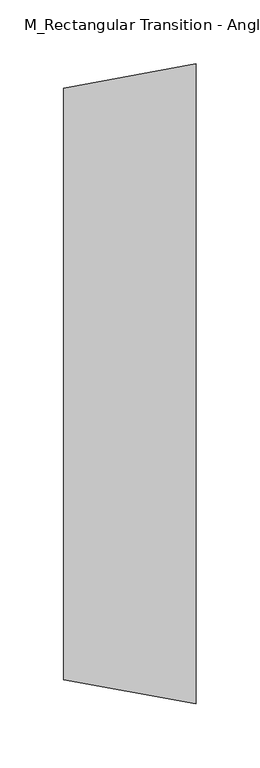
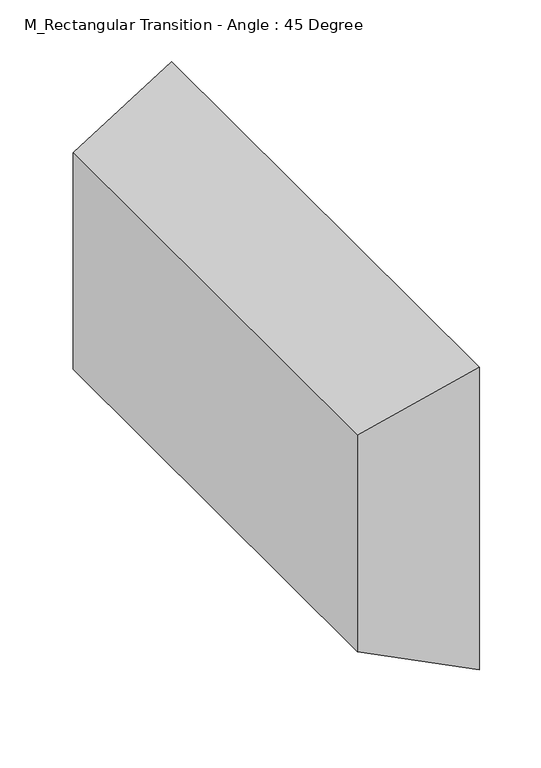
"""IFC4 building model written with IfcOpenShell, lengths in millimetres: duct fitting geometry, M_Rectangular Transition - Angle : 45 Degree."""

import ifcopenshell
import ifcopenshell.guid

model = None  # the IFC model being written
_history = None  # IfcOwnerHistory: only IFC2X3 demands one
_inside = {}  # id of a spatial element -> (the spatial element, [elements in it])
_under = {}  # id of a project, library or spatial element -> (it, [spatial elements below it])
_declared = {}  # id of a project -> (the project, [libraries it declares])
_typed = {}  # id of a type object -> (the type object, [elements of that type])
_made_of = {}  # id of a material, layer set ... -> (it, [elements and type objects made of it])


def new_model(schema):
    """Start an empty IFC model of exactly this schema.

    Asked for "IFC4X3", IfcOpenShell would pick the latest addendum, in which some entities
    have other attributes; the version numbers below select the first issue.
    IFC2X3 requires an IfcOwnerHistory on every rooted entity: one is made here for all.
    """
    global model, _history
    if schema == "IFC4X3":
        model = ifcopenshell.file(schema_version=(4, 3, 0, 0))
    else:
        model = ifcopenshell.file(schema=schema)
    _inside.clear()
    _under.clear()
    _declared.clear()
    _typed.clear()
    _made_of.clear()
    _history = None
    if model.schema == "IFC2X3":
        org = make("IfcOrganization", Name="unknown")
        user = make(
            "IfcPersonAndOrganization",
            ThePerson=make("IfcPerson", FamilyName="unknown"),
            TheOrganization=org,
        )
        app = make(
            "IfcApplication",
            ApplicationDeveloper=org,
            Version="unknown",
            ApplicationFullName="unknown",
            ApplicationIdentifier="unknown",
        )
        _history = make(
            "IfcOwnerHistory",
            OwningUser=user,
            OwningApplication=app,
            ChangeAction="ADDED",
            CreationDate=0,
        )
    return model


def make(cls, **values):
    """One entity of the class cls with the attributes given. An attribute that is None is left unset."""
    return model.create_entity(
        cls, **{name: value for name, value in values.items() if value is not None}
    )


def rooted(cls, **values):
    """An entity with a GlobalId (a new one), such as an element, a storey or a relation."""
    return make(cls, GlobalId=ifcopenshell.guid.new(), OwnerHistory=_history, **values)


def si_unit(unit_type, name, prefix=None):
    """IfcSIUnit, for example si_unit("LENGTHUNIT", "METRE", prefix="MILLI")."""
    return make("IfcSIUnit", UnitType=unit_type, Prefix=prefix, Name=name)


def assignment(units):
    """IfcUnitAssignment: the units of a project."""
    return None if units is None else make("IfcUnitAssignment", Units=units)


def point(xyz):
    """IfcCartesianPoint."""
    return None if xyz is None else make("IfcCartesianPoint", Coordinates=xyz)


def direction(xyz):
    """IfcDirection."""
    return None if xyz is None else make("IfcDirection", DirectionRatios=xyz)


def frame(location, z_axis=None, x_axis=None):
    """IfcAxis2Placement3D, a coordinate frame: its origin and axes. An axis left out is left unset."""
    return make(
        "IfcAxis2Placement3D",
        Location=point(location),
        Axis=direction(z_axis),
        RefDirection=direction(x_axis),
    )


def origin():
    """The frame at (0, 0, 0) with its axes left unset."""
    return frame((0.0, 0.0, 0.0))


def place(relative_to, where):
    """IfcLocalPlacement: puts the frame where relative to a parent placement (None: the world)."""
    return make(
        "IfcLocalPlacement", PlacementRelTo=relative_to, RelativePlacement=where
    )


def context(
    kind, dimensions, precision=None, world=None, true_north=None, identifier=None
):
    """IfcGeometricRepresentationContext, for example the 3D "Model" context."""
    return make(
        "IfcGeometricRepresentationContext",
        ContextIdentifier=identifier,
        ContextType=kind,
        CoordinateSpaceDimension=dimensions,
        Precision=precision,
        WorldCoordinateSystem=world,
        TrueNorth=true_north,
    )


def project(units=None, contexts=None):
    """IfcProject with its units and contexts."""
    return rooted(
        "IfcProject",
        Name="project",
        RepresentationContexts=contexts,
        UnitsInContext=assignment(units),
    )


def spatial(cls, under=None, at=None, **own):
    """A site, building, storey or space (cls), placed at a placement, below another one or the project."""
    s = rooted(cls, ObjectPlacement=at, **own)
    if under is not None:
        _under.setdefault(under.id(), (under, []))[1].append(s)
    return s


def faces_of(points, faces, orient=None, outer=None):
    """IfcFace entities. A face is a list of loops; a loop is a list of indices into points, from 0.

    orient and outer hold one flag for each loop. By default every Orientation is true, the
    first loop of a face is its IfcFaceOuterBound and the others are IfcFaceBound.
    """
    made = []
    for i, loops in enumerate(faces):
        bounds = []
        for j, loop in enumerate(loops):
            is_outer = j == 0 if outer is None else outer[i][j]
            bounds.append(
                make(
                    "IfcFaceOuterBound" if is_outer else "IfcFaceBound",
                    Bound=make("IfcPolyLoop", Polygon=[points[k] for k in loop]),
                    Orientation=True if orient is None else orient[i][j],
                )
            )
        made.append(make("IfcFace", Bounds=bounds))
    return made


def faceted_brep(points, faces, orient=None, outer=None, voids=None):
    """IfcFacetedBrep: a solid bounded by flat faces; with voids (closed shells), ...WithVoids."""
    shared = [point(p) for p in points]
    hull = make("IfcClosedShell", CfsFaces=faces_of(shared, faces, orient, outer))
    if voids is None:
        return make("IfcFacetedBrep", Outer=hull)
    return make(
        "IfcFacetedBrepWithVoids",
        Outer=hull,
        Voids=[
            make(cls, CfsFaces=faces_of(shared, fs, o, b)) for cls, fs, o, b in voids
        ],
    )


def shape(context_of_items, identifier, shape_type, items):
    """IfcShapeRepresentation: the items that make up one representation, for example the "Body"."""
    return make(
        "IfcShapeRepresentation",
        ContextOfItems=context_of_items,
        RepresentationIdentifier=identifier,
        RepresentationType=shape_type,
        Items=items,
    )


def source(mapping_origin, context_of_items, identifier, shape_type, items):
    """IfcRepresentationMap: a shape defined once, which mapped items show again and again."""
    return make(
        "IfcRepresentationMap",
        MappingOrigin=mapping_origin,
        MappedRepresentation=shape(context_of_items, identifier, shape_type, items),
    )


def transform(
    local_origin,
    x_axis=None,
    y_axis=None,
    z_axis=None,
    scale=None,
    scale2=None,
    scale3=None,
    uniform=True,
):
    """IfcCartesianTransformationOperator3D, or its non-uniform kind. x_axis, y_axis, z_axis: its Axis1, 2, 3."""
    if uniform:
        return make(
            "IfcCartesianTransformationOperator3D",
            Axis1=direction(x_axis),
            Axis2=direction(y_axis),
            LocalOrigin=point(local_origin),
            Scale=scale,
            Axis3=direction(z_axis),
        )
    return make(
        "IfcCartesianTransformationOperator3DnonUniform",
        Axis1=direction(x_axis),
        Axis2=direction(y_axis),
        LocalOrigin=point(local_origin),
        Scale=scale,
        Axis3=direction(z_axis),
        Scale2=scale2,
        Scale3=scale3,
    )


def mapped(mapping_source, mapping_target):
    """IfcMappedItem: shows the shape of a source again, moved by a transform."""
    return make(
        "IfcMappedItem", MappingSource=mapping_source, MappingTarget=mapping_target
    )


def made_of(thing, what):
    """Note that an element or type object is made of a material, layer set ...; save() writes the relation."""
    if what is not None:
        _made_of.setdefault(what.id(), (what, []))[1].append(thing)
    return thing


def element(
    cls,
    number,
    at=None,
    inside=None,
    cuts=None,
    type_object=None,
    material=None,
    context=None,
    identifier="Body",
    shape_type=None,
    held_by="IfcProductDefinitionShape",
    body=None,
    shapes=None,
    **own,
):
    """One element of the class cls, such as IfcWall. Its Tag is "e" and its number.

    at: its placement. inside: the storey or other place that contains it. cuts: it is an
    opening in that element (IfcRelVoidsElement). A single representation is given by context,
    identifier, shape_type and body (its items); several are given by shapes. held_by: the class
    of the entity that holds the representations. save() writes the other relations.
    """
    e = rooted(cls, Tag="e%d" % number, ObjectPlacement=at, **own)
    if body is not None:
        shapes = [shape(context, identifier, shape_type, body)]
    if shapes is not None:
        e.Representation = make(held_by, Representations=shapes)
    if inside is not None:
        _inside.setdefault(inside.id(), (inside, []))[1].append(e)
    if cuts is not None:
        rooted(
            "IfcRelVoidsElement", RelatingBuildingElement=cuts, RelatedOpeningElement=e
        )
    if type_object is not None:
        _typed.setdefault(type_object.id(), (type_object, []))[1].append(e)
    return made_of(e, material)


def aggregate(whole, parts):
    """IfcRelAggregates: a whole, such as a stair, and the parts it consists of."""
    return rooted("IfcRelAggregates", RelatingObject=whole, RelatedObjects=parts)


def save(model, path):
    """Write the relations noted so far, then the file.

    IfcRelAggregates (storeys below a building ...), IfcRelContainedInSpatialStructure (elements
    in a storey), IfcRelDefinesByType, IfcRelAssociatesMaterial and IfcRelDeclares: one each for
    every whole, place, type object, material and project.
    """
    for whole, parts in _under.values():
        aggregate(whole, parts)
    for where, things in _inside.values():
        rooted(
            "IfcRelContainedInSpatialStructure",
            RelatedElements=things,
            RelatingStructure=where,
        )
    for kind, things in _typed.values():
        rooted("IfcRelDefinesByType", RelatedObjects=things, RelatingType=kind)
    for what, things in _made_of.values():
        rooted("IfcRelAssociatesMaterial", RelatedObjects=things, RelatingMaterial=what)
    for by, libraries in _declared.values():
        rooted("IfcRelDeclares", RelatingContext=by, RelatedDefinitions=libraries)
    model.write(path)


def m_rectangular_transition_angle_45_degree_3cf6e25b(model_context):
    return source(origin(), model_context, "Body", "Brep", [
        faceted_brep([(103.4792288, -250.0, 150.0000782), (103.4792288, -250.0, -149.9999218), (103.4792288, 250.0, -149.9999218), (103.4792288, 250.0, 150.0000782), (0.0, -230.9375, 107.1375), (0.0, 230.9375, 107.1375), (0.0, 230.9375, -107.1375), (0.0, -230.9375, -107.1375)], [[[0, 1, 2, 3]], [[4, 5, 6, 7]], [[4, 7, 1, 0]], [[7, 6, 2, 1]], [[6, 5, 3, 2]], [[5, 4, 0, 3]]]),
    ])


if __name__ == "__main__":
    model = new_model("IFC4")
    model_context = context("Model", 3, world=origin())
    ifc_project = project(units=[si_unit("LENGTHUNIT", "METRE", prefix="MILLI")], contexts=[model_context])
    site = spatial("IfcSite", under=ifc_project)
    building = spatial("IfcBuilding", under=site)
    placement = place(None, origin())
    m_rectangular_transition_angle_45_degree_shape = m_rectangular_transition_angle_45_degree_3cf6e25b(model_context)
    element("IfcDuctFitting", 1, ObjectType="M_Rectangular Transition - Angle : 45 Degree", at=placement, inside=building, context=model_context, shape_type="MappedRepresentation", body=[
        mapped(m_rectangular_transition_angle_45_degree_shape, transform((0.0, 0.0, 0.0), x_axis=(1.0, 0.0, 0.0), y_axis=(0.0, 1.0, 0.0), z_axis=(0.0, 0.0, 1.0))),
    ])
    save(model, "model.ifc")
